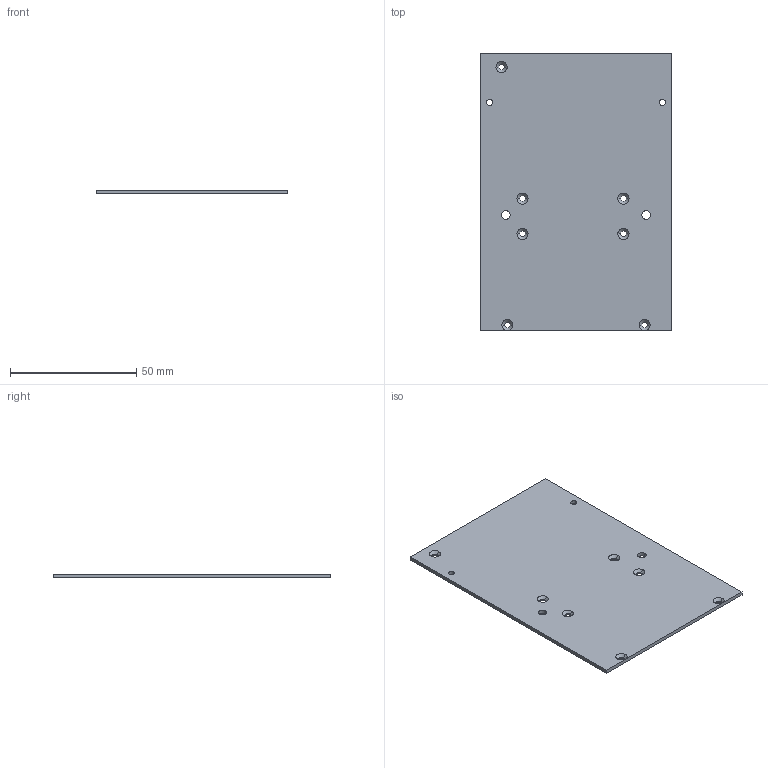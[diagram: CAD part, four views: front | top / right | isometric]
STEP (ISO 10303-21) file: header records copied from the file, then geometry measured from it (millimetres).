
FILE_DESCRIPTION (( 'STEP AP214' ), '1' );
FILE_NAME ('Panel_IF.STEP', '2025-01-13T17:26:47', ( '' ), ( '' ), 'SwSTEP 2.0', 'SolidWorks 2022', '' );
FILE_SCHEMA (( 'AUTOMOTIVE_DESIGN' ));
Length unit declared in the file: millimetre
Products named in the file (1): Panel_IF
Bounding box: 76 x 110 x 1.5 mm (x, y, z)
Volume: 12418 mm3; surface area: 17272.3 mm2
Topology: 1 solids, 1 shells, 42 faces, 106 edges, 66 vertices
Faces by surface type: cylinder 22, cone 14, plane 6
Entity records: 1354 total; most frequent: DIRECTION 250, CARTESIAN_POINT 215, ORIENTED_EDGE 212, EDGE_CURVE 106, AXIS2_PLACEMENT_3D 101, VERTEX_POINT 66, EDGE_LOOP 64, CIRCLE 58
